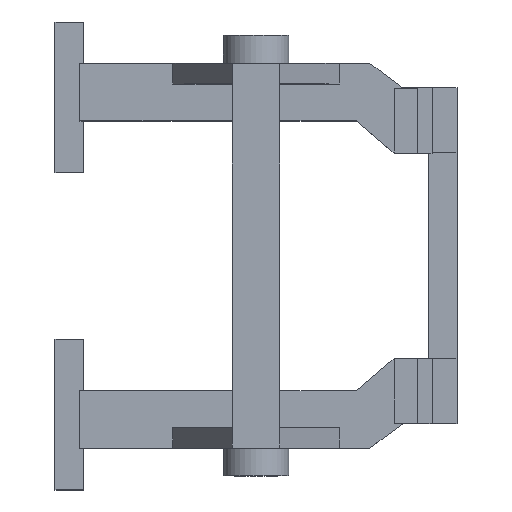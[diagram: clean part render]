
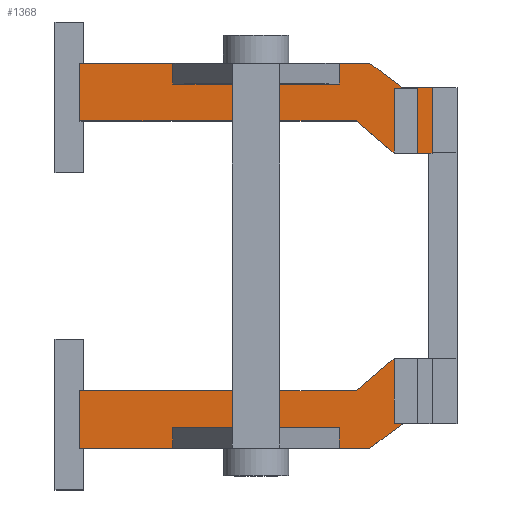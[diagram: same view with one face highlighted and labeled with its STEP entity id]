
A CAD part, top view. The second image highlights one B-rep face of the part: STEP entity #1368.
In plain terms, the highlighted planar face has unit normal (0, 0, 1).
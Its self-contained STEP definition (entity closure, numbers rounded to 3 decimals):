
#32=ORIENTED_EDGE('',*,*,#436,.F.);
#33=ORIENTED_EDGE('',*,*,#437,.F.);
#34=ORIENTED_EDGE('',*,*,#438,.T.);
#35=ORIENTED_EDGE('',*,*,#439,.F.);
#36=ORIENTED_EDGE('',*,*,#440,.F.);
#37=ORIENTED_EDGE('',*,*,#441,.F.);
#38=ORIENTED_EDGE('',*,*,#442,.F.);
#39=ORIENTED_EDGE('',*,*,#443,.T.);
#40=ORIENTED_EDGE('',*,*,#444,.T.);
#41=ORIENTED_EDGE('',*,*,#445,.F.);
#42=ORIENTED_EDGE('',*,*,#446,.F.);
#43=ORIENTED_EDGE('',*,*,#447,.T.);
#44=ORIENTED_EDGE('',*,*,#448,.F.);
#45=ORIENTED_EDGE('',*,*,#449,.F.);
#46=ORIENTED_EDGE('',*,*,#450,.T.);
#47=ORIENTED_EDGE('',*,*,#451,.T.);
#48=ORIENTED_EDGE('',*,*,#452,.T.);
#49=ORIENTED_EDGE('',*,*,#453,.F.);
#50=ORIENTED_EDGE('',*,*,#454,.F.);
#51=ORIENTED_EDGE('',*,*,#455,.T.);
#52=ORIENTED_EDGE('',*,*,#456,.F.);
#53=ORIENTED_EDGE('',*,*,#457,.F.);
#54=ORIENTED_EDGE('',*,*,#458,.F.);
#55=ORIENTED_EDGE('',*,*,#459,.F.);
#56=ORIENTED_EDGE('',*,*,#460,.T.);
#57=ORIENTED_EDGE('',*,*,#461,.T.);
#58=ORIENTED_EDGE('',*,*,#462,.F.);
#59=ORIENTED_EDGE('',*,*,#463,.F.);
#60=ORIENTED_EDGE('',*,*,#464,.F.);
#61=ORIENTED_EDGE('',*,*,#465,.F.);
#62=ORIENTED_EDGE('',*,*,#466,.F.);
#436=EDGE_CURVE('',#638,#639,#770,.T.);
#437=EDGE_CURVE('',#640,#638,#771,.T.);
#438=EDGE_CURVE('',#640,#641,#772,.T.);
#439=EDGE_CURVE('',#642,#641,#773,.T.);
#440=EDGE_CURVE('',#643,#642,#774,.T.);
#441=EDGE_CURVE('',#644,#643,#775,.T.);
#442=EDGE_CURVE('',#645,#644,#776,.T.);
#443=EDGE_CURVE('',#645,#646,#777,.T.);
#444=EDGE_CURVE('',#646,#647,#778,.T.);
#445=EDGE_CURVE('',#648,#647,#779,.T.);
#446=EDGE_CURVE('',#649,#648,#780,.T.);
#447=EDGE_CURVE('',#649,#650,#781,.T.);
#448=EDGE_CURVE('',#651,#650,#782,.T.);
#449=EDGE_CURVE('',#652,#651,#783,.T.);
#450=EDGE_CURVE('',#652,#653,#784,.T.);
#451=EDGE_CURVE('',#653,#654,#785,.T.);
#452=EDGE_CURVE('',#654,#655,#786,.T.);
#453=EDGE_CURVE('',#656,#655,#787,.T.);
#454=EDGE_CURVE('',#657,#656,#788,.T.);
#455=EDGE_CURVE('',#657,#658,#789,.T.);
#456=EDGE_CURVE('',#659,#658,#790,.T.);
#457=EDGE_CURVE('',#660,#659,#791,.T.);
#458=EDGE_CURVE('',#661,#660,#792,.T.);
#459=EDGE_CURVE('',#662,#661,#793,.T.);
#460=EDGE_CURVE('',#662,#663,#794,.T.);
#461=EDGE_CURVE('',#663,#664,#795,.T.);
#462=EDGE_CURVE('',#665,#664,#796,.T.);
#463=EDGE_CURVE('',#666,#665,#797,.T.);
#464=EDGE_CURVE('',#667,#666,#798,.T.);
#465=EDGE_CURVE('',#668,#667,#799,.T.);
#466=EDGE_CURVE('',#639,#668,#800,.T.);
#638=VERTEX_POINT('',#1884);
#639=VERTEX_POINT('',#1885);
#640=VERTEX_POINT('',#1887);
#641=VERTEX_POINT('',#1889);
#642=VERTEX_POINT('',#1891);
#643=VERTEX_POINT('',#1893);
#644=VERTEX_POINT('',#1895);
#645=VERTEX_POINT('',#1897);
#646=VERTEX_POINT('',#1899);
#647=VERTEX_POINT('',#1901);
#648=VERTEX_POINT('',#1903);
#649=VERTEX_POINT('',#1905);
#650=VERTEX_POINT('',#1907);
#651=VERTEX_POINT('',#1909);
#652=VERTEX_POINT('',#1911);
#653=VERTEX_POINT('',#1913);
#654=VERTEX_POINT('',#1915);
#655=VERTEX_POINT('',#1917);
#656=VERTEX_POINT('',#1919);
#657=VERTEX_POINT('',#1921);
#658=VERTEX_POINT('',#1923);
#659=VERTEX_POINT('',#1925);
#660=VERTEX_POINT('',#1927);
#661=VERTEX_POINT('',#1929);
#662=VERTEX_POINT('',#1931);
#663=VERTEX_POINT('',#1933);
#664=VERTEX_POINT('',#1935);
#665=VERTEX_POINT('',#1937);
#666=VERTEX_POINT('',#1939);
#667=VERTEX_POINT('',#1941);
#668=VERTEX_POINT('',#1943);
#770=LINE('',#1883,#964);
#771=LINE('',#1886,#965);
#772=LINE('',#1888,#966);
#773=LINE('',#1890,#967);
#774=LINE('',#1892,#968);
#775=LINE('',#1894,#969);
#776=LINE('',#1896,#970);
#777=LINE('',#1898,#971);
#778=LINE('',#1900,#972);
#779=LINE('',#1902,#973);
#780=LINE('',#1904,#974);
#781=LINE('',#1906,#975);
#782=LINE('',#1908,#976);
#783=LINE('',#1910,#977);
#784=LINE('',#1912,#978);
#785=LINE('',#1914,#979);
#786=LINE('',#1916,#980);
#787=LINE('',#1918,#981);
#788=LINE('',#1920,#982);
#789=LINE('',#1922,#983);
#790=LINE('',#1924,#984);
#791=LINE('',#1926,#985);
#792=LINE('',#1928,#986);
#793=LINE('',#1930,#987);
#794=LINE('',#1932,#988);
#795=LINE('',#1934,#989);
#796=LINE('',#1936,#990);
#797=LINE('',#1938,#991);
#798=LINE('',#1940,#992);
#799=LINE('',#1942,#993);
#800=LINE('',#1944,#994);
#964=VECTOR('',#1533,1000.);
#965=VECTOR('',#1534,1000.);
#966=VECTOR('',#1535,1000.);
#967=VECTOR('',#1536,1000.);
#968=VECTOR('',#1537,1000.);
#969=VECTOR('',#1538,1000.);
#970=VECTOR('',#1539,1000.);
#971=VECTOR('',#1540,1000.);
#972=VECTOR('',#1541,1000.);
#973=VECTOR('',#1542,1000.);
#974=VECTOR('',#1543,1000.);
#975=VECTOR('',#1544,1000.);
#976=VECTOR('',#1545,1000.);
#977=VECTOR('',#1546,1000.);
#978=VECTOR('',#1547,1000.);
#979=VECTOR('',#1548,1000.);
#980=VECTOR('',#1549,1000.);
#981=VECTOR('',#1550,1000.);
#982=VECTOR('',#1551,1000.);
#983=VECTOR('',#1552,1000.);
#984=VECTOR('',#1553,1000.);
#985=VECTOR('',#1554,1000.);
#986=VECTOR('',#1555,1000.);
#987=VECTOR('',#1556,1000.);
#988=VECTOR('',#1557,1000.);
#989=VECTOR('',#1558,1000.);
#990=VECTOR('',#1559,1000.);
#991=VECTOR('',#1560,1000.);
#992=VECTOR('',#1561,1000.);
#993=VECTOR('',#1562,1000.);
#994=VECTOR('',#1563,1000.);
#1158=EDGE_LOOP('',(#32,#33,#34,#35,#36,#37,#38,#39,#40,#41,#42,#43,#44,
#45,#46,#47,#48,#49,#50,#51,#52,#53,#54,#55,#56,#57,#58,#59,#60,#61,#62));
#1230=FACE_BOUND('',#1158,.T.);
#1302=PLANE('',#1451);
#1368=ADVANCED_FACE('',(#1230),#1302,.T.);
#1451=AXIS2_PLACEMENT_3D('',#1882,#1531,#1532);
#1531=DIRECTION('',(0.,0.,1.));
#1532=DIRECTION('',(1.,0.,0.));
#1533=DIRECTION('',(0.,1.,0.));
#1534=DIRECTION('',(-1.,0.,0.));
#1535=DIRECTION('',(0.,1.,0.));
#1536=DIRECTION('',(-1.,0.,0.));
#1537=DIRECTION('',(0.,1.,0.));
#1538=DIRECTION('',(-1.,0.,0.));
#1539=DIRECTION('',(-0.803,-0.596,0.));
#1540=DIRECTION('',(-1.,0.,0.));
#1541=DIRECTION('',(0.,1.,0.));
#1542=DIRECTION('',(0.76,0.65,0.));
#1543=DIRECTION('',(1.,0.,0.));
#1544=DIRECTION('',(0.,1.,0.));
#1545=DIRECTION('',(-1.,0.,0.));
#1546=DIRECTION('',(-0.76,0.65,0.));
#1547=DIRECTION('',(0.,1.,0.));
#1548=DIRECTION('',(1.,0.,0.));
#1549=DIRECTION('',(0.,-1.,0.));
#1550=DIRECTION('',(-1.,0.,0.));
#1551=DIRECTION('',(-1.,0.,0.));
#1552=DIRECTION('',(0.,1.,0.));
#1553=DIRECTION('',(1.,0.,0.));
#1554=DIRECTION('',(0.803,-0.596,0.));
#1555=DIRECTION('',(1.,0.,0.));
#1556=DIRECTION('',(0.,1.,0.));
#1557=DIRECTION('',(-1.,0.,0.));
#1558=DIRECTION('',(0.,1.,0.));
#1559=DIRECTION('',(1.,0.,0.));
#1560=DIRECTION('',(0.,1.,0.));
#1561=DIRECTION('',(-1.,0.,0.));
#1562=DIRECTION('',(0.,1.,0.));
#1563=DIRECTION('',(1.,0.,0.));
#1882=CARTESIAN_POINT('',(104.732,-295.,86.28));
#1883=CARTESIAN_POINT('',(-222.094,-295.,86.28));
#1884=CARTESIAN_POINT('',(-222.094,-242.683,86.28));
#1885=CARTESIAN_POINT('',(-222.094,-170.,86.28));
#1886=CARTESIAN_POINT('',(-222.094,-242.683,86.28));
#1887=CARTESIAN_POINT('',(-104.665,-242.683,86.28));
#1888=CARTESIAN_POINT('',(-104.665,-295.,86.28));
#1889=CARTESIAN_POINT('',(-104.665,-216.605,86.28));
#1890=CARTESIAN_POINT('',(119.,-216.605,86.28));
#1891=CARTESIAN_POINT('',(104.732,-216.605,86.28));
#1892=CARTESIAN_POINT('',(104.732,-295.,86.28));
#1893=CARTESIAN_POINT('',(104.732,-242.683,86.28));
#1894=CARTESIAN_POINT('',(104.732,-242.683,86.28));
#1895=CARTESIAN_POINT('',(143.489,-242.683,86.28));
#1896=CARTESIAN_POINT('',(93.468,-279.833,86.28));
#1897=CARTESIAN_POINT('',(185.916,-211.173,86.28));
#1898=CARTESIAN_POINT('',(203.32,-211.173,86.28));
#1899=CARTESIAN_POINT('',(174.028,-211.173,86.28));
#1900=CARTESIAN_POINT('',(174.028,-211.173,86.28));
#1901=CARTESIAN_POINT('',(174.028,-129.576,86.28));
#1902=CARTESIAN_POINT('',(126.811,-170.,86.28));
#1903=CARTESIAN_POINT('',(126.811,-170.,86.28));
#1904=CARTESIAN_POINT('',(30.,-170.,86.28));
#1905=CARTESIAN_POINT('',(30.,-170.,86.28));
#1906=CARTESIAN_POINT('',(30.,-170.,86.28));
#1907=CARTESIAN_POINT('',(30.,170.,86.28));
#1908=CARTESIAN_POINT('',(126.811,170.,86.28));
#1909=CARTESIAN_POINT('',(126.811,170.,86.28));
#1910=CARTESIAN_POINT('',(174.028,129.576,86.28));
#1911=CARTESIAN_POINT('',(174.028,129.576,86.28));
#1912=CARTESIAN_POINT('',(174.028,129.576,86.28));
#1913=CARTESIAN_POINT('',(174.028,211.173,86.28));
#1914=CARTESIAN_POINT('',(174.028,211.173,86.28));
#1915=CARTESIAN_POINT('',(203.32,211.173,86.28));
#1916=CARTESIAN_POINT('',(203.32,211.173,86.28));
#1917=CARTESIAN_POINT('',(203.32,129.576,86.28));
#1918=CARTESIAN_POINT('',(217.25,129.576,86.28));
#1919=CARTESIAN_POINT('',(217.25,129.576,86.28));
#1920=CARTESIAN_POINT('',(399.25,129.576,86.28));
#1921=CARTESIAN_POINT('',(222.094,129.576,86.28));
#1922=CARTESIAN_POINT('',(222.094,-295.,86.28));
#1923=CARTESIAN_POINT('',(222.094,211.839,86.28));
#1924=CARTESIAN_POINT('',(104.732,211.839,86.28));
#1925=CARTESIAN_POINT('',(185.038,211.839,86.28));
#1926=CARTESIAN_POINT('',(375.839,70.197,86.28));
#1927=CARTESIAN_POINT('',(143.489,242.683,86.28));
#1928=CARTESIAN_POINT('',(104.732,242.683,86.28));
#1929=CARTESIAN_POINT('',(104.732,242.683,86.28));
#1930=CARTESIAN_POINT('',(104.732,-295.,86.28));
#1931=CARTESIAN_POINT('',(104.732,216.605,86.28));
#1932=CARTESIAN_POINT('',(119.,216.605,86.28));
#1933=CARTESIAN_POINT('',(-104.665,216.605,86.28));
#1934=CARTESIAN_POINT('',(-104.665,-295.,86.28));
#1935=CARTESIAN_POINT('',(-104.665,242.683,86.28));
#1936=CARTESIAN_POINT('',(-222.094,242.683,86.28));
#1937=CARTESIAN_POINT('',(-222.094,242.683,86.28));
#1938=CARTESIAN_POINT('',(-222.094,-295.,86.28));
#1939=CARTESIAN_POINT('',(-222.094,170.,86.28));
#1940=CARTESIAN_POINT('',(-222.094,170.,86.28));
#1941=CARTESIAN_POINT('',(-30.,170.,86.28));
#1942=CARTESIAN_POINT('',(-30.,-170.,86.28));
#1943=CARTESIAN_POINT('',(-30.,-170.,86.28));
#1944=CARTESIAN_POINT('',(-222.094,-170.,86.28));
